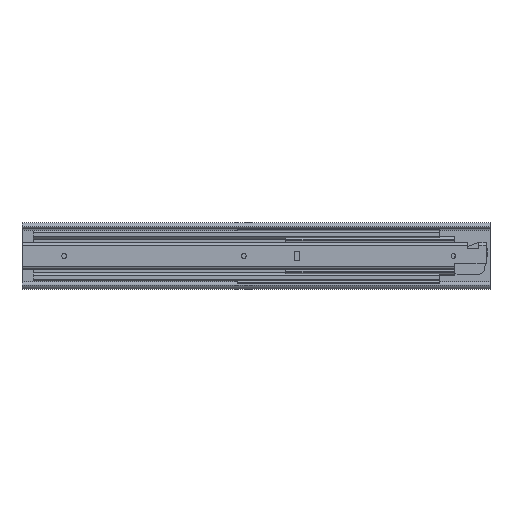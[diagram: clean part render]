
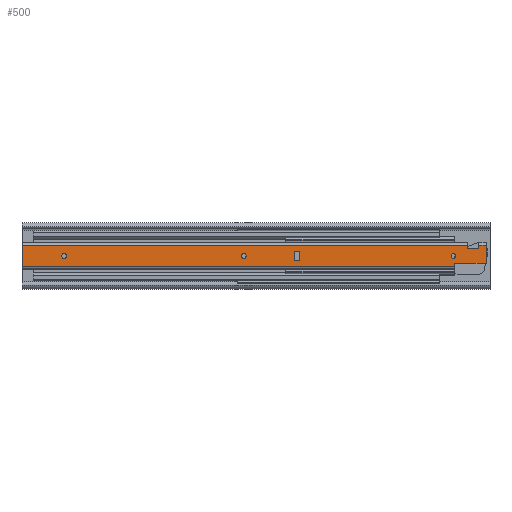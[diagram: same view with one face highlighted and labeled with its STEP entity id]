
A CAD part, top view. The second image highlights one B-rep face of the part: STEP entity #500.
In plain terms, the highlighted planar face has unit normal (0, 0, 1).
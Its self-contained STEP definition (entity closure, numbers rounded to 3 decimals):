
#500 = ADVANCED_FACE( '', ( #1134, #1135, #1136, #1137, #1138 ), #1139, .F. );
#1134 = FACE_BOUND( '', #1778, .T. );
#1135 = FACE_BOUND( '', #1779, .T. );
#1136 = FACE_BOUND( '', #1780, .T. );
#1137 = FACE_BOUND( '', #1781, .T. );
#1138 = FACE_OUTER_BOUND( '', #1782, .T. );
#1139 = PLANE( '', #1783 );
#1778 = EDGE_LOOP( '', ( #4343, #4344, #4345, #4346 ) );
#1779 = EDGE_LOOP( '', ( #4347 ) );
#1780 = EDGE_LOOP( '', ( #4348 ) );
#1781 = EDGE_LOOP( '', ( #4349 ) );
#1782 = EDGE_LOOP( '', ( #4350, #4351, #4352, #4353, #4354, #4355, #4356, #4357, #4358, #4359 ) );
#1783 = AXIS2_PLACEMENT_3D( '', #4360, #4361, #4362 );
#4343 = ORIENTED_EDGE( '', *, *, #5073, .F. );
#4344 = ORIENTED_EDGE( '', *, *, #5076, .F. );
#4345 = ORIENTED_EDGE( '', *, *, #5078, .F. );
#4346 = ORIENTED_EDGE( '', *, *, #5080, .F. );
#4347 = ORIENTED_EDGE( '', *, *, #5081, .F. );
#4348 = ORIENTED_EDGE( '', *, *, #5083, .F. );
#4349 = ORIENTED_EDGE( '', *, *, #5085, .F. );
#4350 = ORIENTED_EDGE( '', *, *, #5064, .F. );
#4351 = ORIENTED_EDGE( '', *, *, #5062, .F. );
#4352 = ORIENTED_EDGE( '', *, *, #5256, .T. );
#4353 = ORIENTED_EDGE( '', *, *, #5235, .T. );
#4354 = ORIENTED_EDGE( '', *, *, #5259, .F. );
#4355 = ORIENTED_EDGE( '', *, *, #5152, .F. );
#4356 = ORIENTED_EDGE( '', *, *, #5257, .F. );
#4357 = ORIENTED_EDGE( '', *, *, #5234, .F. );
#4358 = ORIENTED_EDGE( '', *, *, #5247, .T. );
#4359 = ORIENTED_EDGE( '', *, *, #5051, .F. );
#4360 = CARTESIAN_POINT( '', ( 496., 11.25, 0. ) );
#4361 = DIRECTION( '', ( 0., 0., -1. ) );
#4362 = DIRECTION( '', ( -1., 0., 0. ) );
#5051 = EDGE_CURVE( '', #6344, #6346, #6347, .T. );
#5062 = EDGE_CURVE( '', #6365, #6367, #6368, .T. );
#5064 = EDGE_CURVE( '', #6367, #6344, #6370, .T. );
#5073 = EDGE_CURVE( '', #6383, #6384, #6385, .T. );
#5076 = EDGE_CURVE( '', #6388, #6383, #6389, .T. );
#5078 = EDGE_CURVE( '', #6391, #6388, #6392, .T. );
#5080 = EDGE_CURVE( '', #6384, #6391, #6394, .T. );
#5081 = EDGE_CURVE( '', #6395, #6395, #6396, .T. );
#5083 = EDGE_CURVE( '', #6399, #6399, #6400, .T. );
#5085 = EDGE_CURVE( '', #6403, #6403, #6404, .T. );
#5152 = EDGE_CURVE( '', #6517, #6519, #6520, .T. );
#5234 = EDGE_CURVE( '', #6650, #6640, #6652, .T. );
#5235 = EDGE_CURVE( '', #6653, #6654, #6655, .T. );
#5247 = EDGE_CURVE( '', #6650, #6346, #6673, .T. );
#5256 = EDGE_CURVE( '', #6365, #6653, #6682, .T. );
#5257 = EDGE_CURVE( '', #6640, #6517, #6683, .T. );
#5259 = EDGE_CURVE( '', #6519, #6654, #6685, .T. );
#6344 = VERTEX_POINT( '', #8238 );
#6346 = VERTEX_POINT( '', #8241 );
#6347 = LINE( '', #8242, #8243 );
#6365 = VERTEX_POINT( '', #8265 );
#6367 = VERTEX_POINT( '', #8267 );
#6368 = LINE( '', #8268, #8269 );
#6370 = LINE( '', #8272, #8273 );
#6383 = VERTEX_POINT( '', #8294 );
#6384 = VERTEX_POINT( '', #8295 );
#6385 = LINE( '', #8296, #8297 );
#6388 = VERTEX_POINT( '', #8302 );
#6389 = LINE( '', #8303, #8304 );
#6391 = VERTEX_POINT( '', #8307 );
#6392 = LINE( '', #8308, #8309 );
#6394 = LINE( '', #8312, #8313 );
#6395 = VERTEX_POINT( '', #8314 );
#6396 = CIRCLE( '', #8315, 2.5 );
#6399 = VERTEX_POINT( '', #8318 );
#6400 = CIRCLE( '', #8319, 2.5 );
#6403 = VERTEX_POINT( '', #8322 );
#6404 = CIRCLE( '', #8323, 2.5 );
#6517 = VERTEX_POINT( '', #8476 );
#6519 = VERTEX_POINT( '', #8479 );
#6520 = LINE( '', #8480, #8481 );
#6640 = VERTEX_POINT( '', #8656 );
#6650 = VERTEX_POINT( '', #8669 );
#6652 = LINE( '', #8671, #8672 );
#6653 = VERTEX_POINT( '', #8673 );
#6654 = VERTEX_POINT( '', #8674 );
#6655 = LINE( '', #8675, #8676 );
#6673 = LINE( '', #8699, #8700 );
#6682 = LINE( '', #8717, #8718 );
#6683 = LINE( '', #8719, #8720 );
#6685 = LINE( '', #8723, #8724 );
#8238 = CARTESIAN_POINT( '', ( 488., 8., 0. ) );
#8241 = CARTESIAN_POINT( '', ( 488., 11.25, 0. ) );
#8242 = CARTESIAN_POINT( '', ( 488., 8., 0. ) );
#8243 = VECTOR( '', #9737, 1000. );
#8265 = CARTESIAN_POINT( '', ( 476., 11.25, 0. ) );
#8267 = CARTESIAN_POINT( '', ( 476., 8., 0. ) );
#8268 = CARTESIAN_POINT( '', ( 476., 18., 0. ) );
#8269 = VECTOR( '', #9760, 1000. );
#8272 = CARTESIAN_POINT( '', ( 476., 8., 0. ) );
#8273 = VECTOR( '', #9762, 1000. );
#8294 = CARTESIAN_POINT( '', ( 297., -5., 0. ) );
#8295 = CARTESIAN_POINT( '', ( 297., 5., 0. ) );
#8296 = CARTESIAN_POINT( '', ( 297., -5., 0. ) );
#8297 = VECTOR( '', #9771, 1000. );
#8302 = CARTESIAN_POINT( '', ( 291., -5., 0. ) );
#8303 = CARTESIAN_POINT( '', ( 291., -5., 0. ) );
#8304 = VECTOR( '', #9774, 1000. );
#8307 = CARTESIAN_POINT( '', ( 291., 5., 0. ) );
#8308 = CARTESIAN_POINT( '', ( 291., 5., 0. ) );
#8309 = VECTOR( '', #9776, 1000. );
#8312 = CARTESIAN_POINT( '', ( 297., 5., 0. ) );
#8313 = VECTOR( '', #9778, 1000. );
#8314 = CARTESIAN_POINT( '', ( 463.5, 0., 0. ) );
#8315 = AXIS2_PLACEMENT_3D( '', #9779, #9780, #9781 );
#8318 = CARTESIAN_POINT( '', ( 239.5, 0., 0. ) );
#8319 = AXIS2_PLACEMENT_3D( '', #9785, #9786, #9787 );
#8322 = CARTESIAN_POINT( '', ( 47.5, 0., 0. ) );
#8323 = AXIS2_PLACEMENT_3D( '', #9791, #9792, #9793 );
#8476 = CARTESIAN_POINT( '', ( 462., -8., 0. ) );
#8479 = CARTESIAN_POINT( '', ( 462., -11.25, 0. ) );
#8480 = CARTESIAN_POINT( '', ( 462., -8., 0. ) );
#8481 = VECTOR( '', #9910, 1000. );
#8656 = CARTESIAN_POINT( '', ( 496., -8., 0. ) );
#8669 = CARTESIAN_POINT( '', ( 496., 11.25, 0. ) );
#8671 = CARTESIAN_POINT( '', ( 496., 11.25, 0. ) );
#8672 = VECTOR( '', #10038, 1000. );
#8673 = CARTESIAN_POINT( '', ( 0., 11.25, 0. ) );
#8674 = CARTESIAN_POINT( '', ( 0., -11.25, 0. ) );
#8675 = CARTESIAN_POINT( '', ( 0., 11.25, 0. ) );
#8676 = VECTOR( '', #10039, 1000. );
#8699 = CARTESIAN_POINT( '', ( 496., 11.25, 0. ) );
#8700 = VECTOR( '', #10063, 1000. );
#8717 = CARTESIAN_POINT( '', ( 496., 11.25, 0. ) );
#8718 = VECTOR( '', #10072, 1000. );
#8719 = CARTESIAN_POINT( '', ( 496., -8., 0. ) );
#8720 = VECTOR( '', #10073, 1000. );
#8723 = CARTESIAN_POINT( '', ( 496., -11.25, 0. ) );
#8724 = VECTOR( '', #10075, 1000. );
#9737 = DIRECTION( '', ( 0., 1., 0. ) );
#9760 = DIRECTION( '', ( 0., -1., 0. ) );
#9762 = DIRECTION( '', ( 1., 0., 0. ) );
#9771 = DIRECTION( '', ( 0., 1., 0. ) );
#9774 = DIRECTION( '', ( 1., 0., 0. ) );
#9776 = DIRECTION( '', ( 0., -1., 0. ) );
#9778 = DIRECTION( '', ( -1., 0., 0. ) );
#9779 = CARTESIAN_POINT( '', ( 461., 0., 0. ) );
#9780 = DIRECTION( '', ( 0., 0., 1. ) );
#9781 = DIRECTION( '', ( 1., 0., 0. ) );
#9785 = CARTESIAN_POINT( '', ( 237., 0., 0. ) );
#9786 = DIRECTION( '', ( 0., 0., 1. ) );
#9787 = DIRECTION( '', ( 1., 0., 0. ) );
#9791 = CARTESIAN_POINT( '', ( 45., 0., 0. ) );
#9792 = DIRECTION( '', ( 0., 0., 1. ) );
#9793 = DIRECTION( '', ( 1., 0., 0. ) );
#9910 = DIRECTION( '', ( 0., -1., 0. ) );
#10038 = DIRECTION( '', ( 0., -1., 0. ) );
#10039 = DIRECTION( '', ( 0., -1., 0. ) );
#10063 = DIRECTION( '', ( -1., 0., 0. ) );
#10072 = DIRECTION( '', ( -1., 0., 0. ) );
#10073 = DIRECTION( '', ( -1., 0., 0. ) );
#10075 = DIRECTION( '', ( -1., 0., 0. ) );
